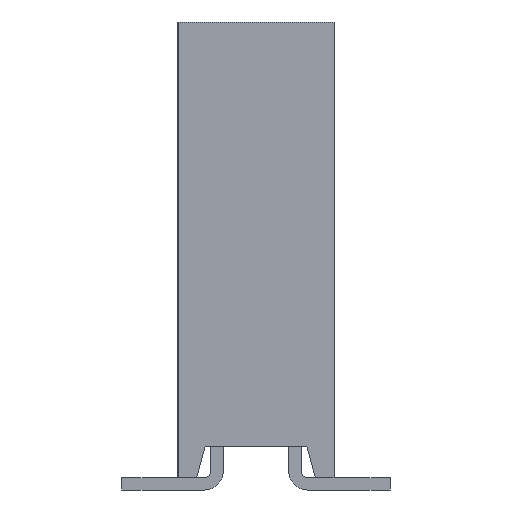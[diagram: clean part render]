
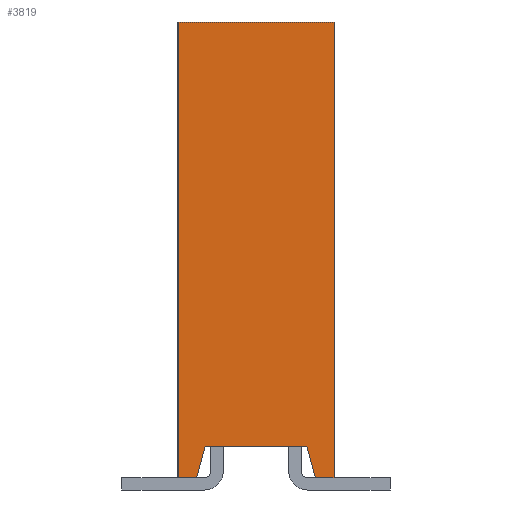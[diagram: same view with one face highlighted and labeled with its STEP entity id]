
A CAD part, front view. The second image highlights one B-rep face of the part: STEP entity #3819.
In plain terms, the highlighted planar face has unit normal (0, -1, 0).
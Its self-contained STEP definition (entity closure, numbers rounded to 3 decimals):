
#3603 = VERTEX_POINT('',#3604);
#3604 = CARTESIAN_POINT('',(-1.25,-1.27,7.5));
#3610 = EDGE_CURVE('',#3603,#3611,#3613,.T.);
#3611 = VERTEX_POINT('',#3612);
#3612 = CARTESIAN_POINT('',(1.25,-1.27,7.5));
#3613 = LINE('',#3614,#3615);
#3614 = CARTESIAN_POINT('',(-1.25,-1.27,7.5));
#3615 = VECTOR('',#3616,1.);
#3616 = DIRECTION('',(1.,0.,0.));
#3745 = EDGE_CURVE('',#3746,#3603,#3748,.T.);
#3746 = VERTEX_POINT('',#3747);
#3747 = CARTESIAN_POINT('',(-1.25,-1.27,0.2));
#3748 = LINE('',#3749,#3750);
#3749 = CARTESIAN_POINT('',(-1.25,-1.27,0.2));
#3750 = VECTOR('',#3751,1.);
#3751 = DIRECTION('',(0.,0.,1.));
#3819 = ADVANCED_FACE('',(#3820),#3870,.F.);
#3820 = FACE_BOUND('',#3821,.F.);
#3821 = EDGE_LOOP('',(#3822,#3830,#3831,#3832,#3840,#3848,#3856,#3864));
#3822 = ORIENTED_EDGE('',*,*,#3823,.F.);
#3823 = EDGE_CURVE('',#3746,#3824,#3826,.T.);
#3824 = VERTEX_POINT('',#3825);
#3825 = CARTESIAN_POINT('',(-0.95,-1.27,0.2));
#3826 = LINE('',#3827,#3828);
#3827 = CARTESIAN_POINT('',(-1.25,-1.27,0.2));
#3828 = VECTOR('',#3829,1.);
#3829 = DIRECTION('',(1.,0.,0.));
#3830 = ORIENTED_EDGE('',*,*,#3745,.T.);
#3831 = ORIENTED_EDGE('',*,*,#3610,.T.);
#3832 = ORIENTED_EDGE('',*,*,#3833,.F.);
#3833 = EDGE_CURVE('',#3834,#3611,#3836,.T.);
#3834 = VERTEX_POINT('',#3835);
#3835 = CARTESIAN_POINT('',(1.25,-1.27,0.2));
#3836 = LINE('',#3837,#3838);
#3837 = CARTESIAN_POINT('',(1.25,-1.27,0.2));
#3838 = VECTOR('',#3839,1.);
#3839 = DIRECTION('',(0.,0.,1.));
#3840 = ORIENTED_EDGE('',*,*,#3841,.F.);
#3841 = EDGE_CURVE('',#3842,#3834,#3844,.T.);
#3842 = VERTEX_POINT('',#3843);
#3843 = CARTESIAN_POINT('',(0.95,-1.27,0.2));
#3844 = LINE('',#3845,#3846);
#3845 = CARTESIAN_POINT('',(-1.25,-1.27,0.2));
#3846 = VECTOR('',#3847,1.);
#3847 = DIRECTION('',(1.,0.,0.));
#3848 = ORIENTED_EDGE('',*,*,#3849,.F.);
#3849 = EDGE_CURVE('',#3850,#3842,#3852,.T.);
#3850 = VERTEX_POINT('',#3851);
#3851 = CARTESIAN_POINT('',(0.816,-1.27,0.7));
#3852 = LINE('',#3853,#3854);
#3853 = CARTESIAN_POINT('',(0.816,-1.27,0.7));
#3854 = VECTOR('',#3855,1.);
#3855 = DIRECTION('',(0.259,0.,-0.966
    ));
#3856 = ORIENTED_EDGE('',*,*,#3857,.F.);
#3857 = EDGE_CURVE('',#3858,#3850,#3860,.T.);
#3858 = VERTEX_POINT('',#3859);
#3859 = CARTESIAN_POINT('',(-0.816,-1.27,0.7));
#3860 = LINE('',#3861,#3862);
#3861 = CARTESIAN_POINT('',(-0.816,-1.27,0.7));
#3862 = VECTOR('',#3863,1.);
#3863 = DIRECTION('',(1.,0.,0.));
#3864 = ORIENTED_EDGE('',*,*,#3865,.F.);
#3865 = EDGE_CURVE('',#3824,#3858,#3866,.T.);
#3866 = LINE('',#3867,#3868);
#3867 = CARTESIAN_POINT('',(-0.95,-1.27,0.2));
#3868 = VECTOR('',#3869,1.);
#3869 = DIRECTION('',(0.259,0.,0.966)
  );
#3870 = PLANE('',#3871);
#3871 = AXIS2_PLACEMENT_3D('',#3872,#3873,#3874);
#3872 = CARTESIAN_POINT('',(-1.25,-1.27,0.2));
#3873 = DIRECTION('',(0.,1.,0.));
#3874 = DIRECTION('',(1.,0.,0.));
